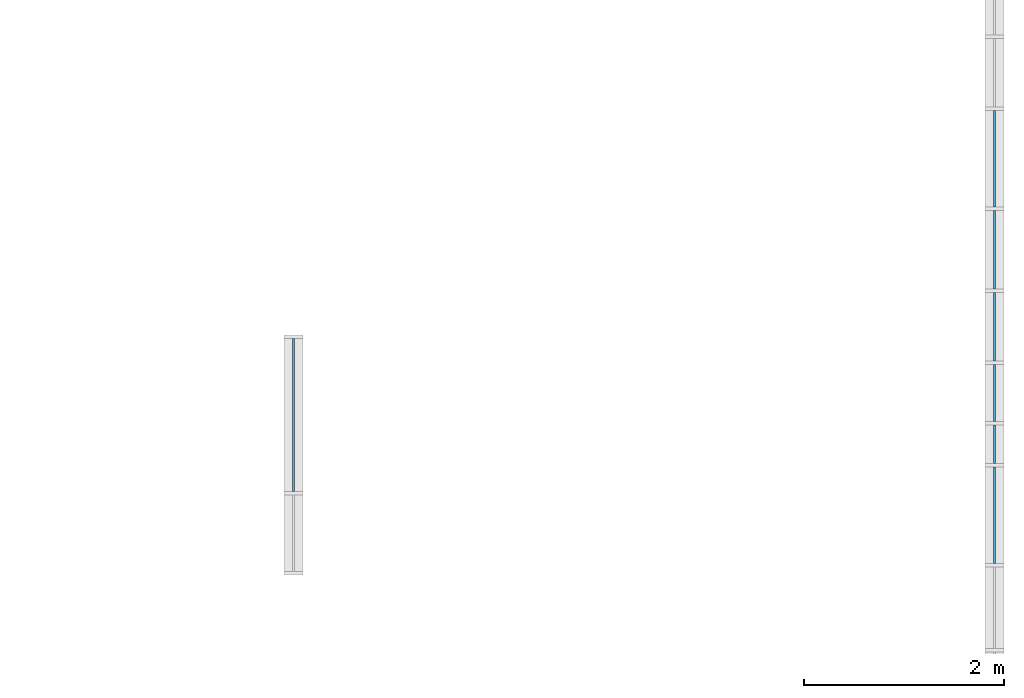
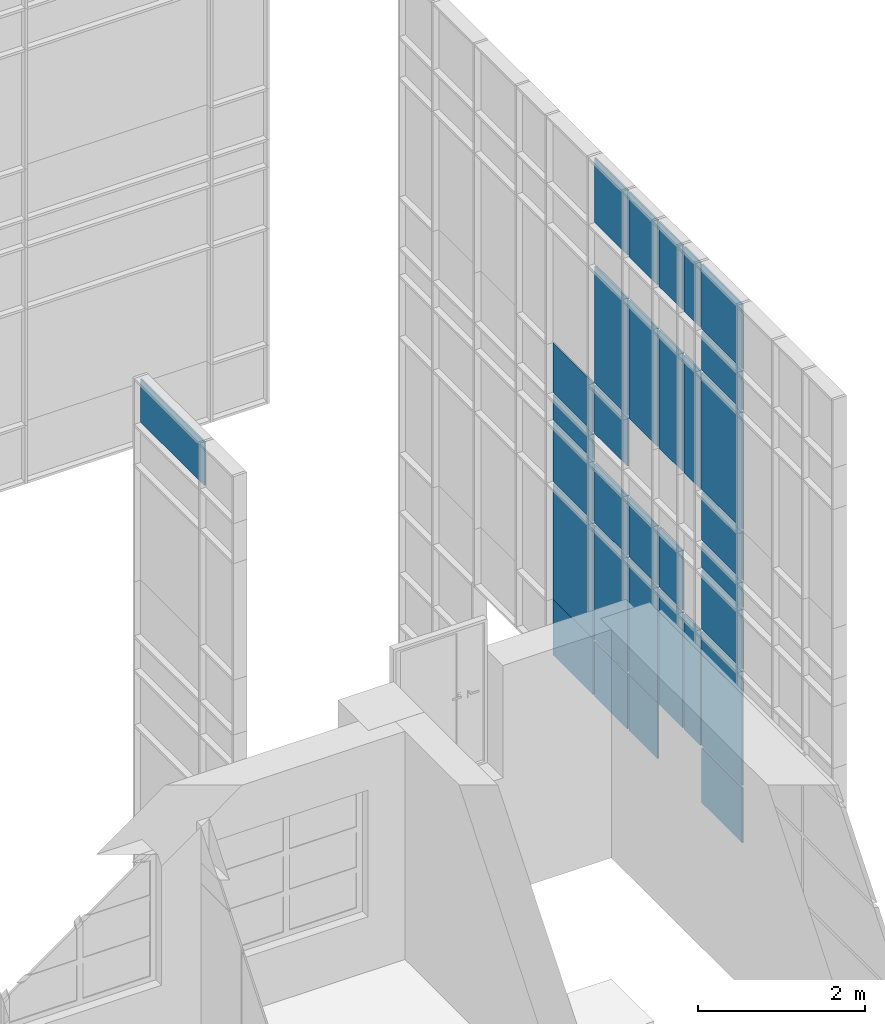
# One storey, part 33 of 73: 32 plates, 2 elements without a shape of their own.
"""IFC2X3 building model written with IfcOpenShell, lengths in millimetres."""

from ifc_helpers import new_model, entity, si_unit, converted_unit, derived_unit, direction, frame, origin, origin_2d_with_axis, place, context, subcontext, project, spatial, rectangle, extrude, source, transform, mapped, material, layer, layer_set, layer_usage, type_object, type_shapes, element, aggregate, save


model = new_model("IFC2X3")

# Units and contexts
model_context = context("Model", 3, precision=0.01, world=origin(), true_north=direction((6.12303176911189e-17, 1.0)))
body_context = subcontext(model_context, "Body", "Model", "MODEL_VIEW")
ifc_project = project(units=[si_unit("LENGTHUNIT", "METRE", prefix="MILLI"), si_unit("AREAUNIT", "SQUARE_METRE"), si_unit("VOLUMEUNIT", "CUBIC_METRE"), converted_unit("PLANEANGLEUNIT", "DEGREE", entity("IfcRatioMeasure", 0.0174532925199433), si_unit("PLANEANGLEUNIT", "RADIAN"), dimensions=[0, 0, 0, 0, 0, 0, 0]), si_unit("MASSUNIT", "GRAM", prefix="KILO"), derived_unit("MASSDENSITYUNIT", [(si_unit("MASSUNIT", "GRAM", prefix="KILO"), 1), (si_unit("LENGTHUNIT", "METRE"), -3)]), si_unit("TIMEUNIT", "SECOND"), si_unit("FREQUENCYUNIT", "HERTZ"), si_unit("THERMODYNAMICTEMPERATUREUNIT", "DEGREE_CELSIUS"), derived_unit("THERMALTRANSMITTANCEUNIT", [(si_unit("MASSUNIT", "GRAM", prefix="KILO"), 1), (si_unit("THERMODYNAMICTEMPERATUREUNIT", "KELVIN"), -1), (si_unit("TIMEUNIT", "SECOND"), -3)]), derived_unit("VOLUMETRICFLOWRATEUNIT", [(si_unit("LENGTHUNIT", "METRE"), 3), (si_unit("TIMEUNIT", "SECOND"), -1)]), si_unit("ELECTRICCURRENTUNIT", "AMPERE"), si_unit("ELECTRICVOLTAGEUNIT", "VOLT"), si_unit("POWERUNIT", "WATT"), si_unit("FORCEUNIT", "NEWTON", prefix="KILO"), si_unit("ILLUMINANCEUNIT", "LUX"), si_unit("LUMINOUSFLUXUNIT", "LUMEN"), si_unit("LUMINOUSINTENSITYUNIT", "CANDELA"), derived_unit("USERDEFINED", [(si_unit("MASSUNIT", "GRAM", prefix="KILO"), -1), (si_unit("LENGTHUNIT", "METRE"), -2), (si_unit("TIMEUNIT", "SECOND"), 3), (si_unit("LUMINOUSFLUXUNIT", "LUMEN"), 1)]), derived_unit("LINEARVELOCITYUNIT", [(si_unit("LENGTHUNIT", "METRE"), 1), (si_unit("TIMEUNIT", "SECOND"), -1)]), si_unit("PRESSUREUNIT", "PASCAL"), derived_unit("USERDEFINED", [(si_unit("LENGTHUNIT", "METRE"), -2), (si_unit("MASSUNIT", "GRAM", prefix="KILO"), 1), (si_unit("TIMEUNIT", "SECOND"), -2)])], contexts=[model_context])

# Site, building, storey
site_placement = place(None, frame((-151.875543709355, 2715.0, 0.0)))
site = spatial("IfcSite", under=ifc_project, at=site_placement, Name="Surface", CompositionType="ELEMENT")
building_placement = place(site_placement, origin())
building = spatial("IfcBuilding", under=site, at=building_placement, CompositionType="ELEMENT")
storey_placement = place(building_placement, frame((0.0, 0.0, 6730.43000000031)))
storey = spatial("IfcBuildingStorey", under=building, at=storey_placement, Name="3 korrus", CompositionType="ELEMENT", Elevation=6730.43000000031)

# Curtain wall, plates
curtain_wall_type = type_object("IfcCurtainWallType", Name="Curtain Wall:Klaasfassaad", PredefinedType="NOTDEFINED")
curtain_wall_1_placement = place(storey_placement, frame((0.0, 0.0, -6730.43000000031)))
curtain_wall_1 = element("IfcCurtainWall", 1, at=curtain_wall_1_placement, inside=storey, type_object=curtain_wall_type, Name="Curtain Wall:Klaasfassaad", ObjectType="Curtain Wall:Klaasfassaad")
ifc_material = material(Name="<Unnamed>")
ifc_layer = layer(ifc_material, 20.0)
ifc_layer_set = layer_set([ifc_layer], Name="Curtain Wall:Klaassein KLS-01")
ifc_layer_usage_1 = layer_usage(ifc_layer_set, "AXIS3", "POSITIVE", 0.0)
plate_type_1 = type_object("IfcPlateType", Name="Glazed", PredefinedType="CURTAIN_PANEL", material=ifc_layer_set)
shared_shape_1 = source(origin(), body_context, "Body", "SweptSolid", [
    extrude(rectangle(XDim=20.0, YDim=964.999999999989, at=origin_2d_with_axis()), frame((0.0, 0.0, 0.0), z_axis=(0.0, 0.0, 1.0), x_axis=(0.0, 1.0, 0.0)), (0.0, 0.0, 1.0), 797.659729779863),
])
type_shapes(plate_type_1, [shared_shape_1])
plate_1_placement = place(curtain_wall_1_placement, frame((38701.6162681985, 16210.5004565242, 3909.42773967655), z_axis=(0.0, 0.0, 1.0), x_axis=(0.0, 1.0, 0.0)))
plate_1 = element("IfcPlate", 2, at=plate_1_placement, type_object=plate_type_1, material=ifc_layer_usage_1, Name="System Panel:Glazed", ObjectType="Glazed", context=body_context, shape_type="MappedRepresentation", body=[
    mapped(shared_shape_1, transform((0.0, 0.0, 0.0), scale=1.0)),
])
ifc_layer_usage_2 = layer_usage(ifc_layer_set, "AXIS3", "POSITIVE", 0.0)
plate_type_2 = type_object("IfcPlateType", Name="Glazed", PredefinedType="CURTAIN_PANEL", material=ifc_layer_set)
shared_shape_2 = source(origin(), body_context, "Body", "SweptSolid", [
    extrude(rectangle(XDim=20.0, YDim=684.999999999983, at=origin_2d_with_axis()), frame((0.0, 0.0, 0.0), z_axis=(0.0, 0.0, 1.0), x_axis=(0.0, 1.0, 0.0)), (0.0, 0.0, 1.0), 815.159729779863),
])
type_shapes(plate_type_2, [shared_shape_2])
plate_2_placement = place(curtain_wall_1_placement, frame((38701.6162681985, 18090.5004565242, 3909.42773967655), z_axis=(0.0, 0.0, 1.0), x_axis=(0.0, 1.0, 0.0)))
plate_2 = element("IfcPlate", 3, at=plate_2_placement, type_object=plate_type_2, material=ifc_layer_usage_2, Name="System Panel:Glazed", ObjectType="Glazed", context=body_context, shape_type="MappedRepresentation", body=[
    mapped(shared_shape_2, transform((0.0, 0.0, 0.0), scale=1.0)),
])
ifc_layer_usage_3 = layer_usage(ifc_layer_set, "AXIS3", "POSITIVE", 0.0)
plate_type_3 = type_object("IfcPlateType", Name="Glazed", PredefinedType="CURTAIN_PANEL", material=ifc_layer_set)
shared_shape_3 = source(origin(), body_context, "Body", "SweptSolid", [
    extrude(rectangle(XDim=20.0, YDim=784.999999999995, at=origin_2d_with_axis()), frame((0.0, 0.0, 0.0), z_axis=(0.0, 0.0, 1.0), x_axis=(0.0, 1.0, 0.0)), (0.0, 0.0, 1.0), 797.659729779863),
])
type_shapes(plate_type_3, [shared_shape_3])
plate_3_placement = place(curtain_wall_1_placement, frame((38701.6162681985, 18860.5004565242, 3909.42773967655), z_axis=(0.0, 0.0, 1.0), x_axis=(0.0, 1.0, 0.0)))
plate_3 = element("IfcPlate", 4, at=plate_3_placement, type_object=plate_type_3, material=ifc_layer_usage_3, Name="System Panel:Glazed", ObjectType="Glazed", context=body_context, shape_type="MappedRepresentation", body=[
    mapped(shared_shape_3, transform((0.0, 0.0, 0.0), scale=1.0)),
])
ifc_layer_usage_4 = layer_usage(ifc_layer_set, "AXIS3", "POSITIVE", 0.0)
plate_type_4 = type_object("IfcPlateType", Name="Glazed", PredefinedType="CURTAIN_PANEL", material=ifc_layer_set)
shared_shape_4 = source(origin(), body_context, "Body", "SweptSolid", [
    extrude(rectangle(XDim=20.0, YDim=964.999999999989, at=origin_2d_with_axis()), frame((0.0, 0.0, 0.0), z_axis=(0.0, 0.0, 1.0), x_axis=(0.0, 1.0, 0.0)), (0.0, 0.0, 1.0), 815.159729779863),
])
type_shapes(plate_type_4, [shared_shape_4])
plate_4_placement = place(curtain_wall_1_placement, frame((38701.6162681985, 19770.5004565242, 3909.42773967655), z_axis=(0.0, 0.0, 1.0), x_axis=(0.0, 1.0, 0.0)))
plate_4 = element("IfcPlate", 5, at=plate_4_placement, type_object=plate_type_4, material=ifc_layer_usage_4, Name="System Panel:Glazed", ObjectType="Glazed", context=body_context, shape_type="MappedRepresentation", body=[
    mapped(shared_shape_4, transform((0.0, 0.0, 0.0), scale=1.0)),
])
ifc_layer_usage_5 = layer_usage(ifc_layer_set, "AXIS3", "POSITIVE", 0.0)
plate_type_5 = type_object("IfcPlateType", Name="Glazed", PredefinedType="CURTAIN_PANEL", material=ifc_layer_set)
shared_shape_5 = source(origin(), body_context, "Body", "SweptSolid", [
    extrude(rectangle(XDim=20.0, YDim=964.999999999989, at=origin_2d_with_axis()), frame((0.0, 0.0, 0.0), z_axis=(0.0, 0.0, 1.0), x_axis=(0.0, 1.0, 0.0)), (0.0, 0.0, 1.0), 1665.31945955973),
])
type_shapes(plate_type_5, [shared_shape_5])
plate_5_placement = place(curtain_wall_1_placement, frame((38701.6162681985, 16210.5004565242, 4742.08746945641), z_axis=(0.0, 0.0, 1.0), x_axis=(0.0, 1.0, 0.0)))
plate_5 = element("IfcPlate", 6, at=plate_5_placement, type_object=plate_type_5, material=ifc_layer_usage_5, Name="System Panel:Glazed", ObjectType="Glazed", context=body_context, shape_type="MappedRepresentation", body=[
    mapped(shared_shape_5, transform((0.0, 0.0, 0.0), scale=1.0)),
])
ifc_layer_usage_6 = layer_usage(ifc_layer_set, "AXIS3", "POSITIVE", 0.0)
plate_type_6 = type_object("IfcPlateType", Name="Glazed", PredefinedType="CURTAIN_PANEL", material=ifc_layer_set)
shared_shape_6 = source(origin(), body_context, "Body", "SweptSolid", [
    extrude(rectangle(XDim=20.0, YDim=384.999999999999, at=origin_2d_with_axis()), frame((0.0, 0.0, 0.0), z_axis=(0.0, 0.0, 1.0), x_axis=(0.0, 1.0, 0.0)), (0.0, 0.0, 1.0), 1682.81945955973),
])
type_shapes(plate_type_6, [shared_shape_6])
plate_6_placement = place(curtain_wall_1_placement, frame((38701.6162681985, 16920.5004565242, 4724.58746945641), z_axis=(0.0, 0.0, 1.0), x_axis=(0.0, 1.0, 0.0)))
plate_6 = element("IfcPlate", 7, at=plate_6_placement, type_object=plate_type_6, material=ifc_layer_usage_6, Name="System Panel:Glazed", ObjectType="Glazed", context=body_context, shape_type="MappedRepresentation", body=[
    mapped(shared_shape_6, transform((0.0, 0.0, 0.0), scale=1.0)),
])
ifc_layer_usage_7 = layer_usage(ifc_layer_set, "AXIS3", "POSITIVE", 0.0)
plate_type_7 = type_object("IfcPlateType", Name="Glazed", PredefinedType="CURTAIN_PANEL", material=ifc_layer_set)
shared_shape_7 = source(origin(), body_context, "Body", "SweptSolid", [
    extrude(rectangle(XDim=20.0, YDim=564.999999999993, at=origin_2d_with_axis()), frame((0.0, 0.0, 0.0), z_axis=(0.0, 0.0, 1.0), x_axis=(0.0, 1.0, 0.0)), (0.0, 0.0, 1.0), 1682.81945955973),
])
type_shapes(plate_type_7, [shared_shape_7])
plate_7_placement = place(curtain_wall_1_placement, frame((38701.6162681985, 17430.5004565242, 4724.58746945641), z_axis=(0.0, 0.0, 1.0), x_axis=(0.0, 1.0, 0.0)))
plate_7 = element("IfcPlate", 8, at=plate_7_placement, type_object=plate_type_7, material=ifc_layer_usage_7, Name="System Panel:Glazed", ObjectType="Glazed", context=body_context, shape_type="MappedRepresentation", body=[
    mapped(shared_shape_7, transform((0.0, 0.0, 0.0), scale=1.0)),
])
ifc_layer_usage_8 = layer_usage(ifc_layer_set, "AXIS3", "POSITIVE", 0.0)
plate_type_8 = type_object("IfcPlateType", Name="Glazed", PredefinedType="CURTAIN_PANEL", material=ifc_layer_set)
shared_shape_8 = source(origin(), body_context, "Body", "SweptSolid", [
    extrude(rectangle(XDim=20.0, YDim=684.999999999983, at=origin_2d_with_axis()), frame((0.0, 0.0, 0.0), z_axis=(0.0, 0.0, 1.0), x_axis=(0.0, 1.0, 0.0)), (0.0, 0.0, 1.0), 1682.81945955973),
])
type_shapes(plate_type_8, [shared_shape_8])
plate_8_placement = place(curtain_wall_1_placement, frame((38701.6162681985, 18090.5004565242, 4724.58746945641), z_axis=(0.0, 0.0, 1.0), x_axis=(0.0, 1.0, 0.0)))
plate_8 = element("IfcPlate", 9, at=plate_8_placement, type_object=plate_type_8, material=ifc_layer_usage_8, Name="System Panel:Glazed", ObjectType="Glazed", context=body_context, shape_type="MappedRepresentation", body=[
    mapped(shared_shape_8, transform((0.0, 0.0, 0.0), scale=1.0)),
])
ifc_layer_usage_9 = layer_usage(ifc_layer_set, "AXIS3", "POSITIVE", 0.0)
plate_type_9 = type_object("IfcPlateType", Name="Glazed", PredefinedType="CURTAIN_PANEL", material=ifc_layer_set)
shared_shape_9 = source(origin(), body_context, "Body", "SweptSolid", [
    extrude(rectangle(XDim=20.0, YDim=784.999999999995, at=origin_2d_with_axis()), frame((0.0, 0.0, 0.0), z_axis=(0.0, 0.0, 1.0), x_axis=(0.0, 1.0, 0.0)), (0.0, 0.0, 1.0), 1665.31945955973),
])
type_shapes(plate_type_9, [shared_shape_9])
plate_9_placement = place(curtain_wall_1_placement, frame((38701.6162681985, 18860.5004565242, 4742.08746945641), z_axis=(0.0, 0.0, 1.0), x_axis=(0.0, 1.0, 0.0)))
plate_9 = element("IfcPlate", 10, at=plate_9_placement, type_object=plate_type_9, material=ifc_layer_usage_9, Name="System Panel:Glazed", ObjectType="Glazed", context=body_context, shape_type="MappedRepresentation", body=[
    mapped(shared_shape_9, transform((0.0, 0.0, 0.0), scale=1.0)),
])
ifc_layer_usage_10 = layer_usage(ifc_layer_set, "AXIS3", "POSITIVE", 0.0)
plate_type_10 = type_object("IfcPlateType", Name="Glazed", PredefinedType="CURTAIN_PANEL", material=ifc_layer_set)
shared_shape_10 = source(origin(), body_context, "Body", "SweptSolid", [
    extrude(rectangle(XDim=20.0, YDim=964.999999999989, at=origin_2d_with_axis()), frame((0.0, 0.0, 0.0), z_axis=(0.0, 0.0, 1.0), x_axis=(0.0, 1.0, 0.0)), (0.0, 0.0, 1.0), 1682.81945955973),
])
type_shapes(plate_type_10, [shared_shape_10])
plate_10_placement = place(curtain_wall_1_placement, frame((38701.6162681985, 19770.5004565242, 4724.58746945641), z_axis=(0.0, 0.0, 1.0), x_axis=(0.0, 1.0, 0.0)))
plate_10 = element("IfcPlate", 11, at=plate_10_placement, type_object=plate_type_10, material=ifc_layer_usage_10, Name="System Panel:Glazed", ObjectType="Glazed", context=body_context, shape_type="MappedRepresentation", body=[
    mapped(shared_shape_10, transform((0.0, 0.0, 0.0), scale=1.0)),
])
ifc_layer_usage_11 = layer_usage(ifc_layer_set, "AXIS3", "POSITIVE", 0.0)
plate_type_11 = type_object("IfcPlateType", Name="Glazed", PredefinedType="CURTAIN_PANEL", material=ifc_layer_set)
shared_shape_11 = source(origin(), body_context, "Body", "SweptSolid", [
    extrude(rectangle(XDim=20.0, YDim=684.999999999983, at=origin_2d_with_axis()), frame((0.0, 0.0, 0.0), z_axis=(0.0, 0.0, 1.0), x_axis=(0.0, 1.0, 0.0)), (0.0, 0.0, 1.0), 865.0),
])
type_shapes(plate_type_11, [shared_shape_11])
plate_11_placement = place(curtain_wall_1_placement, frame((38701.6162681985, 18090.5004565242, 6442.40692901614), z_axis=(0.0, 0.0, 1.0), x_axis=(0.0, 1.0, 0.0)))
plate_11 = element("IfcPlate", 12, at=plate_11_placement, type_object=plate_type_11, material=ifc_layer_usage_11, Name="System Panel:Glazed", ObjectType="Glazed", context=body_context, shape_type="MappedRepresentation", body=[
    mapped(shared_shape_11, transform((0.0, 0.0, 0.0), scale=1.0)),
])
ifc_layer_usage_12 = layer_usage(ifc_layer_set, "AXIS3", "POSITIVE", 0.0)
plate_type_12 = type_object("IfcPlateType", Name="Glazed", PredefinedType="CURTAIN_PANEL", material=ifc_layer_set)
shared_shape_12 = source(origin(), body_context, "Body", "SweptSolid", [
    extrude(rectangle(XDim=20.0, YDim=964.999999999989, at=origin_2d_with_axis()), frame((0.0, 0.0, 0.0), z_axis=(0.0, 0.0, 1.0), x_axis=(0.0, 1.0, 0.0)), (0.0, 0.0, 1.0), 865.0),
])
type_shapes(plate_type_12, [shared_shape_12])
plate_12_placement = place(curtain_wall_1_placement, frame((38701.6162681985, 16210.5004565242, 6442.40692901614), z_axis=(0.0, 0.0, 1.0), x_axis=(0.0, 1.0, 0.0)))
plate_12 = element("IfcPlate", 13, at=plate_12_placement, type_object=plate_type_12, material=ifc_layer_usage_12, Name="System Panel:Glazed", ObjectType="Glazed", context=body_context, shape_type="MappedRepresentation", body=[
    mapped(shared_shape_12, transform((0.0, 0.0, 0.0), scale=1.0)),
])
ifc_layer_usage_13 = layer_usage(ifc_layer_set, "AXIS3", "POSITIVE", 0.0)
plate_13_placement = place(curtain_wall_1_placement, frame((38701.6162681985, 19770.5004565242, 6442.40692901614), z_axis=(0.0, 0.0, 1.0), x_axis=(0.0, 1.0, 0.0)))
plate_13 = element("IfcPlate", 14, at=plate_13_placement, type_object=plate_type_12, material=ifc_layer_usage_13, Name="System Panel:Glazed", ObjectType="Glazed", context=body_context, shape_type="MappedRepresentation", body=[
    mapped(shared_shape_12, transform((0.0, 0.0, 0.0), scale=1.0)),
])
ifc_layer_usage_14 = layer_usage(ifc_layer_set, "AXIS3", "POSITIVE", 0.0)
plate_type_13 = type_object("IfcPlateType", Name="Glazed", PredefinedType="CURTAIN_PANEL", material=ifc_layer_set)
shared_shape_13 = source(origin(), body_context, "Body", "SweptSolid", [
    extrude(rectangle(XDim=20.0, YDim=564.999999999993, at=origin_2d_with_axis()), frame((0.0, 0.0, 0.0), z_axis=(0.0, 0.0, 1.0), x_axis=(0.0, 1.0, 0.0)), (0.0, 0.0, 1.0), 865.0),
])
type_shapes(plate_type_13, [shared_shape_13])
plate_14_placement = place(curtain_wall_1_placement, frame((38701.6162681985, 17430.5004565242, 6442.40692901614), z_axis=(0.0, 0.0, 1.0), x_axis=(0.0, 1.0, 0.0)))
plate_14 = element("IfcPlate", 15, at=plate_14_placement, type_object=plate_type_13, material=ifc_layer_usage_14, Name="System Panel:Glazed", ObjectType="Glazed", context=body_context, shape_type="MappedRepresentation", body=[
    mapped(shared_shape_13, transform((0.0, 0.0, 0.0), scale=1.0)),
])
ifc_layer_usage_15 = layer_usage(ifc_layer_set, "AXIS3", "POSITIVE", 0.0)
plate_type_14 = type_object("IfcPlateType", Name="Glazed", PredefinedType="CURTAIN_PANEL", material=ifc_layer_set)
shared_shape_14 = source(origin(), body_context, "Body", "SweptSolid", [
    extrude(rectangle(XDim=20.0, YDim=784.999999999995, at=origin_2d_with_axis()), frame((0.0, 0.0, 0.0), z_axis=(0.0, 0.0, 1.0), x_axis=(0.0, 1.0, 0.0)), (0.0, 0.0, 1.0), 865.0),
])
type_shapes(plate_type_14, [shared_shape_14])
plate_15_placement = place(curtain_wall_1_placement, frame((38701.6162681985, 18860.5004565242, 6442.40692901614), z_axis=(0.0, 0.0, 1.0), x_axis=(0.0, 1.0, 0.0)))
plate_15 = element("IfcPlate", 16, at=plate_15_placement, type_object=plate_type_14, material=ifc_layer_usage_15, Name="System Panel:Glazed", ObjectType="Glazed", context=body_context, shape_type="MappedRepresentation", body=[
    mapped(shared_shape_14, transform((0.0, 0.0, 0.0), scale=1.0)),
])
ifc_layer_usage_16 = layer_usage(ifc_layer_set, "AXIS3", "POSITIVE", 0.0)
plate_type_15 = type_object("IfcPlateType", Name="Glazed", PredefinedType="CURTAIN_PANEL", material=ifc_layer_set)
shared_shape_15 = source(origin(), body_context, "Body", "SweptSolid", [
    extrude(rectangle(XDim=20.0, YDim=964.999999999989, at=origin_2d_with_axis()), frame((0.0, 0.0, 0.0), z_axis=(0.0, 0.0, 1.0), x_axis=(0.0, 1.0, 0.0)), (0.0, 0.0, 1.0), 364.999999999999),
])
type_shapes(plate_type_15, [shared_shape_15])
plate_16_placement = place(curtain_wall_1_placement, frame((38701.6162681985, 16210.5004565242, 7342.40692901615), z_axis=(0.0, 0.0, 1.0), x_axis=(0.0, 1.0, 0.0)))
plate_16 = element("IfcPlate", 17, at=plate_16_placement, type_object=plate_type_15, material=ifc_layer_usage_16, Name="System Panel:Glazed", ObjectType="Glazed", context=body_context, shape_type="MappedRepresentation", body=[
    mapped(shared_shape_15, transform((0.0, 0.0, 0.0), scale=1.0)),
])
ifc_layer_usage_17 = layer_usage(ifc_layer_set, "AXIS3", "POSITIVE", 0.0)
plate_17_placement = place(curtain_wall_1_placement, frame((38701.6162681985, 19770.5004565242, 7342.40692901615), z_axis=(0.0, 0.0, 1.0), x_axis=(0.0, 1.0, 0.0)))
plate_17 = element("IfcPlate", 18, at=plate_17_placement, type_object=plate_type_15, material=ifc_layer_usage_17, Name="System Panel:Glazed", ObjectType="Glazed", context=body_context, shape_type="MappedRepresentation", body=[
    mapped(shared_shape_15, transform((0.0, 0.0, 0.0), scale=1.0)),
])
ifc_layer_usage_18 = layer_usage(ifc_layer_set, "AXIS3", "POSITIVE", 0.0)
plate_type_16 = type_object("IfcPlateType", Name="Glazed", PredefinedType="CURTAIN_PANEL", material=ifc_layer_set)
shared_shape_16 = source(origin(), body_context, "Body", "SweptSolid", [
    extrude(rectangle(XDim=20.0, YDim=964.999999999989, at=origin_2d_with_axis()), frame((0.0, 0.0, 0.0), z_axis=(0.0, 0.0, 1.0), x_axis=(0.0, 1.0, 0.0)), (0.0, 0.0, 1.0), 705.0),
])
type_shapes(plate_type_16, [shared_shape_16])
plate_18_placement = place(curtain_wall_1_placement, frame((38701.6162681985, 16210.5004565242, 7742.40692901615), z_axis=(0.0, 0.0, 1.0), x_axis=(0.0, 1.0, 0.0)))
plate_18 = element("IfcPlate", 19, at=plate_18_placement, type_object=plate_type_16, material=ifc_layer_usage_18, Name="System Panel:Glazed", ObjectType="Glazed", context=body_context, shape_type="MappedRepresentation", body=[
    mapped(shared_shape_16, transform((0.0, 0.0, 0.0), scale=1.0)),
])
ifc_layer_usage_19 = layer_usage(ifc_layer_set, "AXIS3", "POSITIVE", 0.0)
plate_type_17 = type_object("IfcPlateType", Name="Glazed", PredefinedType="CURTAIN_PANEL", material=ifc_layer_set)
shared_shape_17 = source(origin(), body_context, "Body", "SweptSolid", [
    extrude(rectangle(XDim=20.0, YDim=784.999999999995, at=origin_2d_with_axis()), frame((0.0, 0.0, 0.0), z_axis=(0.0, 0.0, 1.0), x_axis=(0.0, 1.0, 0.0)), (0.0, 0.0, 1.0), 705.0),
])
type_shapes(plate_type_17, [shared_shape_17])
plate_19_placement = place(curtain_wall_1_placement, frame((38701.6162681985, 18860.5004565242, 7742.40692901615), z_axis=(0.0, 0.0, 1.0), x_axis=(0.0, 1.0, 0.0)))
plate_19 = element("IfcPlate", 20, at=plate_19_placement, type_object=plate_type_17, material=ifc_layer_usage_19, Name="System Panel:Glazed", ObjectType="Glazed", context=body_context, shape_type="MappedRepresentation", body=[
    mapped(shared_shape_17, transform((0.0, 0.0, 0.0), scale=1.0)),
])
ifc_layer_usage_20 = layer_usage(ifc_layer_set, "AXIS3", "POSITIVE", 0.0)
plate_type_18 = type_object("IfcPlateType", Name="Glazed", PredefinedType="CURTAIN_PANEL", material=ifc_layer_set)
shared_shape_18 = source(origin(), body_context, "Body", "SweptSolid", [
    extrude(rectangle(XDim=20.0, YDim=964.999999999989, at=origin_2d_with_axis()), frame((0.0, 0.0, 0.0), z_axis=(0.0, 0.0, 1.0), x_axis=(0.0, 1.0, 0.0)), (0.0, 0.0, 1.0), 722.5),
])
type_shapes(plate_type_18, [shared_shape_18])
plate_20_placement = place(curtain_wall_1_placement, frame((38701.6162681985, 19770.5004565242, 7742.40692901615), z_axis=(0.0, 0.0, 1.0), x_axis=(0.0, 1.0, 0.0)))
plate_20 = element("IfcPlate", 21, at=plate_20_placement, type_object=plate_type_18, material=ifc_layer_usage_20, Name="System Panel:Glazed", ObjectType="Glazed", context=body_context, shape_type="MappedRepresentation", body=[
    mapped(shared_shape_18, transform((0.0, 0.0, 0.0), scale=1.0)),
])
ifc_layer_usage_21 = layer_usage(ifc_layer_set, "AXIS3", "POSITIVE", 0.0)
plate_type_19 = type_object("IfcPlateType", Name="Glazed", PredefinedType="CURTAIN_PANEL", material=ifc_layer_set)
shared_shape_19 = source(origin(), body_context, "Body", "SweptSolid", [
    extrude(rectangle(XDim=20.0, YDim=964.999999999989, at=origin_2d_with_axis()), frame((0.0, 0.0, 0.0), z_axis=(0.0, 0.0, 1.0), x_axis=(0.0, 1.0, 0.0)), (0.0, 0.0, 1.0), 1705.0),
])
type_shapes(plate_type_19, [shared_shape_19])
plate_21_placement = place(curtain_wall_1_placement, frame((38701.6162681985, 16210.5004565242, 8482.40692901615), z_axis=(0.0, 0.0, 1.0), x_axis=(0.0, 1.0, 0.0)))
plate_21 = element("IfcPlate", 22, at=plate_21_placement, type_object=plate_type_19, material=ifc_layer_usage_21, Name="System Panel:Glazed", ObjectType="Glazed", context=body_context, shape_type="MappedRepresentation", body=[
    mapped(shared_shape_19, transform((0.0, 0.0, 0.0), scale=1.0)),
])
ifc_layer_usage_22 = layer_usage(ifc_layer_set, "AXIS3", "POSITIVE", 0.0)
plate_type_20 = type_object("IfcPlateType", Name="Glazed", PredefinedType="CURTAIN_PANEL", material=ifc_layer_set)
shared_shape_20 = source(origin(), body_context, "Body", "SweptSolid", [
    extrude(rectangle(XDim=20.0, YDim=384.999999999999, at=origin_2d_with_axis()), frame((0.0, 0.0, 0.0), z_axis=(0.0, 0.0, 1.0), x_axis=(0.0, 1.0, 0.0)), (0.0, 0.0, 1.0), 1722.5),
])
type_shapes(plate_type_20, [shared_shape_20])
plate_22_placement = place(curtain_wall_1_placement, frame((38701.6162681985, 16920.5004565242, 8464.90692901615), z_axis=(0.0, 0.0, 1.0), x_axis=(0.0, 1.0, 0.0)))
plate_22 = element("IfcPlate", 23, at=plate_22_placement, type_object=plate_type_20, material=ifc_layer_usage_22, Name="System Panel:Glazed", ObjectType="Glazed", context=body_context, shape_type="MappedRepresentation", body=[
    mapped(shared_shape_20, transform((0.0, 0.0, 0.0), scale=1.0)),
])
ifc_layer_usage_23 = layer_usage(ifc_layer_set, "AXIS3", "POSITIVE", 0.0)
plate_type_21 = type_object("IfcPlateType", Name="Glazed", PredefinedType="CURTAIN_PANEL", material=ifc_layer_set)
shared_shape_21 = source(origin(), body_context, "Body", "SweptSolid", [
    extrude(rectangle(XDim=20.0, YDim=564.999999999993, at=origin_2d_with_axis()), frame((0.0, 0.0, 0.0), z_axis=(0.0, 0.0, 1.0), x_axis=(0.0, 1.0, 0.0)), (0.0, 0.0, 1.0), 1722.5),
])
type_shapes(plate_type_21, [shared_shape_21])
plate_23_placement = place(curtain_wall_1_placement, frame((38701.6162681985, 17430.5004565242, 8464.90692901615), z_axis=(0.0, 0.0, 1.0), x_axis=(0.0, 1.0, 0.0)))
plate_23 = element("IfcPlate", 24, at=plate_23_placement, type_object=plate_type_21, material=ifc_layer_usage_23, Name="System Panel:Glazed", ObjectType="Glazed", context=body_context, shape_type="MappedRepresentation", body=[
    mapped(shared_shape_21, transform((0.0, 0.0, 0.0), scale=1.0)),
])
ifc_layer_usage_24 = layer_usage(ifc_layer_set, "AXIS3", "POSITIVE", 0.0)
plate_type_22 = type_object("IfcPlateType", Name="Glazed", PredefinedType="CURTAIN_PANEL", material=ifc_layer_set)
shared_shape_22 = source(origin(), body_context, "Body", "SweptSolid", [
    extrude(rectangle(XDim=20.0, YDim=684.999999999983, at=origin_2d_with_axis()), frame((0.0, 0.0, 0.0), z_axis=(0.0, 0.0, 1.0), x_axis=(0.0, 1.0, 0.0)), (0.0, 0.0, 1.0), 1722.5),
])
type_shapes(plate_type_22, [shared_shape_22])
plate_24_placement = place(curtain_wall_1_placement, frame((38701.6162681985, 18090.5004565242, 8464.90692901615), z_axis=(0.0, 0.0, 1.0), x_axis=(0.0, 1.0, 0.0)))
plate_24 = element("IfcPlate", 25, at=plate_24_placement, type_object=plate_type_22, material=ifc_layer_usage_24, Name="System Panel:Glazed", ObjectType="Glazed", context=body_context, shape_type="MappedRepresentation", body=[
    mapped(shared_shape_22, transform((0.0, 0.0, 0.0), scale=1.0)),
])
ifc_layer_usage_25 = layer_usage(ifc_layer_set, "AXIS3", "POSITIVE", 0.0)
plate_type_23 = type_object("IfcPlateType", Name="Glazed", PredefinedType="CURTAIN_PANEL", material=ifc_layer_set)
shared_shape_23 = source(origin(), body_context, "Body", "SweptSolid", [
    extrude(rectangle(XDim=20.0, YDim=784.999999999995, at=origin_2d_with_axis()), frame((0.0, 0.0, 0.0), z_axis=(0.0, 0.0, 1.0), x_axis=(0.0, 1.0, 0.0)), (0.0, 0.0, 1.0), 1705.0),
])
type_shapes(plate_type_23, [shared_shape_23])
plate_25_placement = place(curtain_wall_1_placement, frame((38701.6162681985, 18860.5004565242, 8482.40692901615), z_axis=(0.0, 0.0, 1.0), x_axis=(0.0, 1.0, 0.0)))
plate_25 = element("IfcPlate", 26, at=plate_25_placement, type_object=plate_type_23, material=ifc_layer_usage_25, Name="System Panel:Glazed", ObjectType="Glazed", context=body_context, shape_type="MappedRepresentation", body=[
    mapped(shared_shape_23, transform((0.0, 0.0, 0.0), scale=1.0)),
])
ifc_layer_usage_26 = layer_usage(ifc_layer_set, "AXIS3", "POSITIVE", 0.0)
plate_type_24 = type_object("IfcPlateType", Name="Glazed", PredefinedType="CURTAIN_PANEL", material=ifc_layer_set)
shared_shape_24 = source(origin(), body_context, "Body", "SweptSolid", [
    extrude(rectangle(XDim=20.0, YDim=964.999999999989, at=origin_2d_with_axis()), frame((0.0, 0.0, 0.0), z_axis=(0.0, 0.0, 1.0), x_axis=(0.0, 1.0, 0.0)), (0.0, 0.0, 1.0), 564.999999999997),
])
type_shapes(plate_type_24, [shared_shape_24])
plate_26_placement = place(curtain_wall_1_placement, frame((38701.6162681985, 16210.5004565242, 10222.4069290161), z_axis=(0.0, 0.0, 1.0), x_axis=(0.0, 1.0, 0.0)))
plate_26 = element("IfcPlate", 27, at=plate_26_placement, type_object=plate_type_24, material=ifc_layer_usage_26, Name="System Panel:Glazed", ObjectType="Glazed", context=body_context, shape_type="MappedRepresentation", body=[
    mapped(shared_shape_24, transform((0.0, 0.0, 0.0), scale=1.0)),
])
ifc_layer_usage_27 = layer_usage(ifc_layer_set, "AXIS3", "POSITIVE", 0.0)
plate_type_25 = type_object("IfcPlateType", Name="Glazed", PredefinedType="CURTAIN_PANEL", material=ifc_layer_set)
shared_shape_25 = source(origin(), body_context, "Body", "SweptSolid", [
    extrude(rectangle(XDim=20.0, YDim=684.999999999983, at=origin_2d_with_axis()), frame((0.0, 0.0, 0.0), z_axis=(0.0, 0.0, 1.0), x_axis=(0.0, 1.0, 0.0)), (0.0, 0.0, 1.0), 947.500000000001),
])
type_shapes(plate_type_25, [shared_shape_25])
plate_27_placement = place(curtain_wall_1_placement, frame((38701.6162681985, 18090.5004565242, 10822.4069290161), z_axis=(0.0, 0.0, 1.0), x_axis=(0.0, 1.0, 0.0)))
plate_27 = element("IfcPlate", 28, at=plate_27_placement, type_object=plate_type_25, material=ifc_layer_usage_27, Name="System Panel:Glazed", ObjectType="Glazed", context=body_context, shape_type="MappedRepresentation", body=[
    mapped(shared_shape_25, transform((0.0, 0.0, 0.0), scale=1.0)),
])
ifc_layer_usage_28 = layer_usage(ifc_layer_set, "AXIS3", "POSITIVE", 0.0)
plate_type_26 = type_object("IfcPlateType", Name="Glazed", PredefinedType="CURTAIN_PANEL", material=ifc_layer_set)
shared_shape_26 = source(origin(), body_context, "Body", "SweptSolid", [
    extrude(rectangle(XDim=20.0, YDim=964.999999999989, at=origin_2d_with_axis()), frame((0.0, 0.0, 0.0), z_axis=(0.0, 0.0, 1.0), x_axis=(0.0, 1.0, 0.0)), (0.0, 0.0, 1.0), 947.500000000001),
])
type_shapes(plate_type_26, [shared_shape_26])
plate_28_placement = place(curtain_wall_1_placement, frame((38701.6162681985, 16210.5004565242, 10822.4069290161), z_axis=(0.0, 0.0, 1.0), x_axis=(0.0, 1.0, 0.0)))
plate_28 = element("IfcPlate", 29, at=plate_28_placement, type_object=plate_type_26, material=ifc_layer_usage_28, Name="System Panel:Glazed", ObjectType="Glazed", context=body_context, shape_type="MappedRepresentation", body=[
    mapped(shared_shape_26, transform((0.0, 0.0, 0.0), scale=1.0)),
])
ifc_layer_usage_29 = layer_usage(ifc_layer_set, "AXIS3", "POSITIVE", 0.0)
plate_type_27 = type_object("IfcPlateType", Name="Glazed", PredefinedType="CURTAIN_PANEL", material=ifc_layer_set)
shared_shape_27 = source(origin(), body_context, "Body", "SweptSolid", [
    extrude(rectangle(XDim=20.0, YDim=384.999999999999, at=origin_2d_with_axis()), frame((0.0, 0.0, 0.0), z_axis=(0.0, 0.0, 1.0), x_axis=(0.0, 1.0, 0.0)), (0.0, 0.0, 1.0), 947.500000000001),
])
type_shapes(plate_type_27, [shared_shape_27])
plate_29_placement = place(curtain_wall_1_placement, frame((38701.6162681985, 16920.5004565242, 10822.4069290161), z_axis=(0.0, 0.0, 1.0), x_axis=(0.0, 1.0, 0.0)))
plate_29 = element("IfcPlate", 30, at=plate_29_placement, type_object=plate_type_27, material=ifc_layer_usage_29, Name="System Panel:Glazed", ObjectType="Glazed", context=body_context, shape_type="MappedRepresentation", body=[
    mapped(shared_shape_27, transform((0.0, 0.0, 0.0), scale=1.0)),
])
ifc_layer_usage_30 = layer_usage(ifc_layer_set, "AXIS3", "POSITIVE", 0.0)
plate_type_28 = type_object("IfcPlateType", Name="Glazed", PredefinedType="CURTAIN_PANEL", material=ifc_layer_set)
shared_shape_28 = source(origin(), body_context, "Body", "SweptSolid", [
    extrude(rectangle(XDim=20.0, YDim=564.999999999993, at=origin_2d_with_axis()), frame((0.0, 0.0, 0.0), z_axis=(0.0, 0.0, 1.0), x_axis=(0.0, 1.0, 0.0)), (0.0, 0.0, 1.0), 947.500000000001),
])
type_shapes(plate_type_28, [shared_shape_28])
plate_30_placement = place(curtain_wall_1_placement, frame((38701.6162681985, 17430.5004565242, 10822.4069290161), z_axis=(0.0, 0.0, 1.0), x_axis=(0.0, 1.0, 0.0)))
plate_30 = element("IfcPlate", 31, at=plate_30_placement, type_object=plate_type_28, material=ifc_layer_usage_30, Name="System Panel:Glazed", ObjectType="Glazed", context=body_context, shape_type="MappedRepresentation", body=[
    mapped(shared_shape_28, transform((0.0, 0.0, 0.0), scale=1.0)),
])
ifc_layer_usage_31 = layer_usage(ifc_layer_set, "AXIS3", "POSITIVE", 0.0)
plate_type_29 = type_object("IfcPlateType", Name="Glazed", PredefinedType="CURTAIN_PANEL", material=ifc_layer_set)
shared_shape_29 = source(origin(), body_context, "Body", "SweptSolid", [
    extrude(rectangle(XDim=20.0, YDim=784.999999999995, at=origin_2d_with_axis()), frame((0.0, 0.0, 0.0), z_axis=(0.0, 0.0, 1.0), x_axis=(0.0, 1.0, 0.0)), (0.0, 0.0, 1.0), 947.500000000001),
])
type_shapes(plate_type_29, [shared_shape_29])
plate_31_placement = place(curtain_wall_1_placement, frame((38701.6162681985, 18860.5004565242, 10822.4069290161), z_axis=(0.0, 0.0, 1.0), x_axis=(0.0, 1.0, 0.0)))
plate_31 = element("IfcPlate", 32, at=plate_31_placement, type_object=plate_type_29, material=ifc_layer_usage_31, Name="System Panel:Glazed", ObjectType="Glazed", context=body_context, shape_type="MappedRepresentation", body=[
    mapped(shared_shape_29, transform((0.0, 0.0, 0.0), scale=1.0)),
])
aggregate(curtain_wall_1, [plate_1, plate_2, plate_3, plate_4, plate_5, plate_6, plate_7, plate_8, plate_9, plate_10, plate_12, plate_14, plate_11, plate_15, plate_13, plate_16, plate_17, plate_18, plate_19, plate_20, plate_21, plate_22, plate_23, plate_24, plate_25, plate_26, plate_28, plate_29, plate_30, plate_27, plate_31])

# Curtain wall, plate
curtain_wall_2_placement = place(storey_placement, frame((0.0, 0.0, -6730.43000000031)))
curtain_wall_2 = element("IfcCurtainWall", 33, at=curtain_wall_2_placement, inside=storey, type_object=curtain_wall_type, Name="Curtain Wall:Klaasfassaad", ObjectType="Curtain Wall:Klaasfassaad")
ifc_layer_usage_32 = layer_usage(ifc_layer_set, "AXIS3", "POSITIVE", 0.0)
plate_type_30 = type_object("IfcPlateType", Name="Glazed", PredefinedType="CURTAIN_PANEL", material=ifc_layer_set)
shared_shape_30 = source(origin(), body_context, "Body", "SweptSolid", [
    extrude(rectangle(XDim=20.0, YDim=1527.50000000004, at=origin_2d_with_axis()), frame((0.0, 0.0, 0.0), z_axis=(0.0, 0.0, 1.0), x_axis=(0.0, 1.0, 0.0)), (0.0, 0.0, 1.0), 633.682055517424),
])
type_shapes(plate_type_30, [shared_shape_30])
plate_32_placement = place(curtain_wall_2_placement, frame((31697.6162682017, 17211.2042610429, 11136.2248734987), z_axis=(0.0, 0.0, 1.0), x_axis=(0.0, -1.0, 0.0)))
plate_32 = element("IfcPlate", 34, at=plate_32_placement, type_object=plate_type_30, material=ifc_layer_usage_32, Name="System Panel:Glazed", ObjectType="Glazed", context=body_context, shape_type="MappedRepresentation", body=[
    mapped(shared_shape_30, transform((0.0, 0.0, 0.0), scale=1.0)),
])
aggregate(curtain_wall_2, [plate_32])

save(model, "model.ifc")
